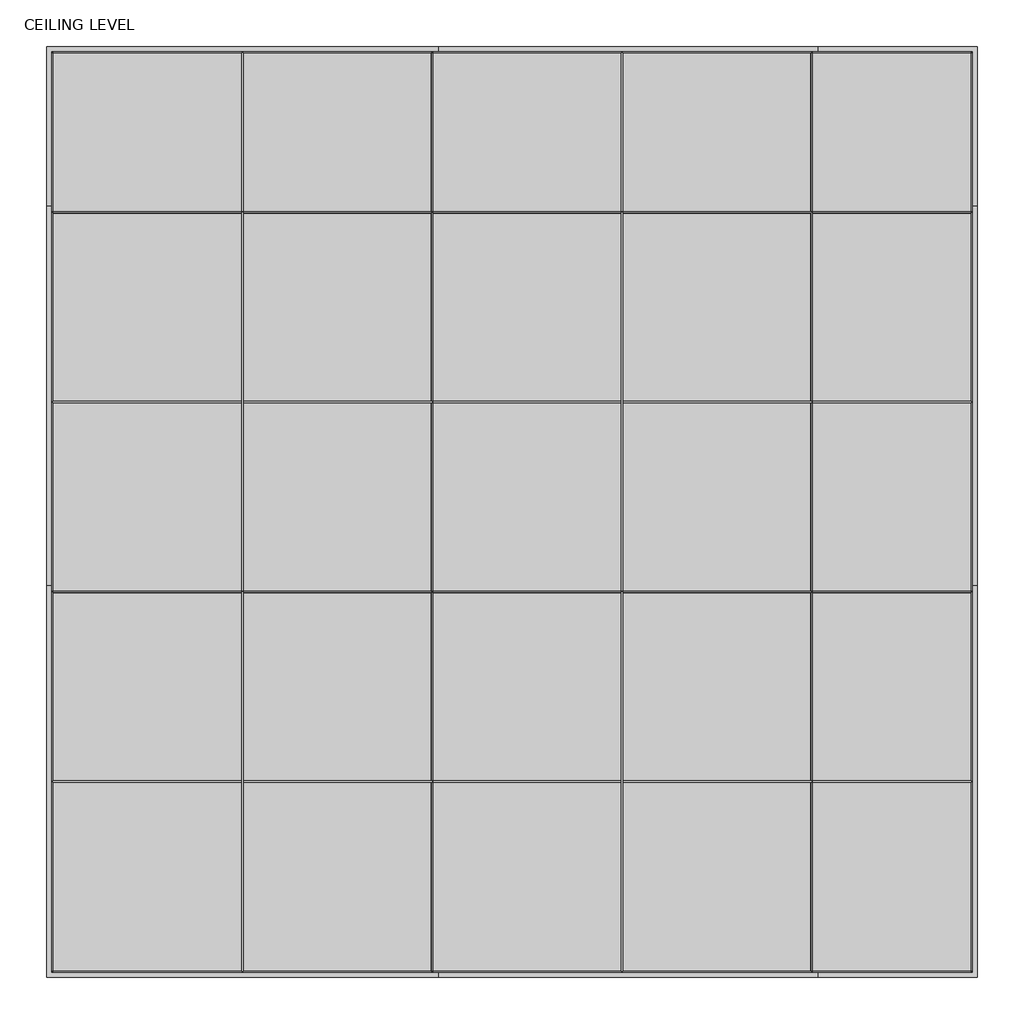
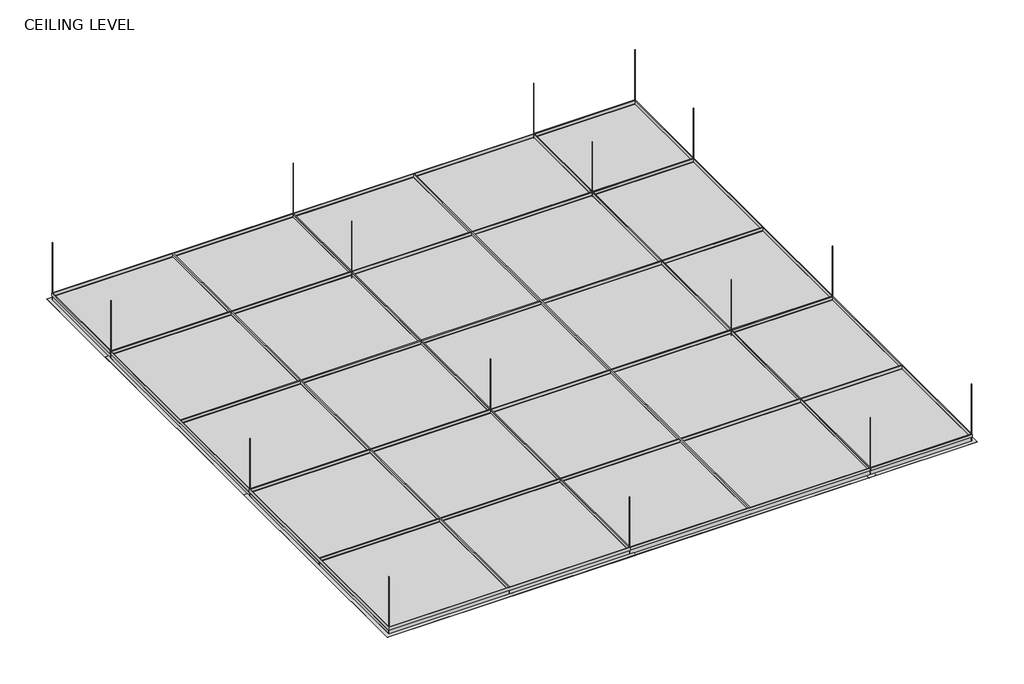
# One storey: 9 plates.
"""IFC4 building model written with IfcOpenShell, lengths in millimetres."""

import ifcopenshell
import ifcopenshell.guid

model = None  # the IFC model being written
_history = None  # IfcOwnerHistory: only IFC2X3 demands one
_inside = {}  # id of a spatial element -> (the spatial element, [elements in it])
_under = {}  # id of a project, library or spatial element -> (it, [spatial elements below it])
_declared = {}  # id of a project -> (the project, [libraries it declares])
_typed = {}  # id of a type object -> (the type object, [elements of that type])
_made_of = {}  # id of a material, layer set ... -> (it, [elements and type objects made of it])


def new_model(schema):
    """Start an empty IFC model of exactly this schema.

    Asked for "IFC4X3", IfcOpenShell would pick the latest addendum, in which some entities
    have other attributes; the version numbers below select the first issue.
    IFC2X3 requires an IfcOwnerHistory on every rooted entity: one is made here for all.
    """
    global model, _history
    if schema == "IFC4X3":
        model = ifcopenshell.file(schema_version=(4, 3, 0, 0))
    else:
        model = ifcopenshell.file(schema=schema)
    _inside.clear()
    _under.clear()
    _declared.clear()
    _typed.clear()
    _made_of.clear()
    _history = None
    if model.schema == "IFC2X3":
        org = make("IfcOrganization", Name="unknown")
        user = make(
            "IfcPersonAndOrganization",
            ThePerson=make("IfcPerson", FamilyName="unknown"),
            TheOrganization=org,
        )
        app = make(
            "IfcApplication",
            ApplicationDeveloper=org,
            Version="unknown",
            ApplicationFullName="unknown",
            ApplicationIdentifier="unknown",
        )
        _history = make(
            "IfcOwnerHistory",
            OwningUser=user,
            OwningApplication=app,
            ChangeAction="ADDED",
            CreationDate=0,
        )
    return model


def make(cls, **values):
    """One entity of the class cls with the attributes given. An attribute that is None is left unset."""
    return model.create_entity(
        cls, **{name: value for name, value in values.items() if value is not None}
    )


def rooted(cls, **values):
    """An entity with a GlobalId (a new one), such as an element, a storey or a relation."""
    return make(cls, GlobalId=ifcopenshell.guid.new(), OwnerHistory=_history, **values)


def si_unit(unit_type, name, prefix=None):
    """IfcSIUnit, for example si_unit("LENGTHUNIT", "METRE", prefix="MILLI")."""
    return make("IfcSIUnit", UnitType=unit_type, Prefix=prefix, Name=name)


def assignment(units):
    """IfcUnitAssignment: the units of a project."""
    return None if units is None else make("IfcUnitAssignment", Units=units)


def point(xyz):
    """IfcCartesianPoint."""
    return None if xyz is None else make("IfcCartesianPoint", Coordinates=xyz)


def direction(xyz):
    """IfcDirection."""
    return None if xyz is None else make("IfcDirection", DirectionRatios=xyz)


def frame(location, z_axis=None, x_axis=None):
    """IfcAxis2Placement3D, a coordinate frame: its origin and axes. An axis left out is left unset."""
    return make(
        "IfcAxis2Placement3D",
        Location=point(location),
        Axis=direction(z_axis),
        RefDirection=direction(x_axis),
    )


def frame_2d(location, x_axis=None):
    """IfcAxis2Placement2D, a coordinate frame in the plane: its origin and x axis."""
    return make(
        "IfcAxis2Placement2D", Location=point(location), RefDirection=direction(x_axis)
    )


def origin():
    """The frame at (0, 0, 0) with its axes left unset."""
    return frame((0.0, 0.0, 0.0))


def origin_with_axes():
    """The frame at (0, 0, 0) with the z axis (0, 0, 1) and the x axis (1, 0, 0) written out."""
    return frame((0.0, 0.0, 0.0), z_axis=(0.0, 0.0, 1.0), x_axis=(1.0, 0.0, 0.0))


def place(relative_to, where):
    """IfcLocalPlacement: puts the frame where relative to a parent placement (None: the world)."""
    return make(
        "IfcLocalPlacement", PlacementRelTo=relative_to, RelativePlacement=where
    )


def context(
    kind, dimensions, precision=None, world=None, true_north=None, identifier=None
):
    """IfcGeometricRepresentationContext, for example the 3D "Model" context."""
    return make(
        "IfcGeometricRepresentationContext",
        ContextIdentifier=identifier,
        ContextType=kind,
        CoordinateSpaceDimension=dimensions,
        Precision=precision,
        WorldCoordinateSystem=world,
        TrueNorth=true_north,
    )


def project(units=None, contexts=None):
    """IfcProject with its units and contexts."""
    return rooted(
        "IfcProject",
        Name="project",
        RepresentationContexts=contexts,
        UnitsInContext=assignment(units),
    )


def spatial(cls, under=None, at=None, **own):
    """A site, building, storey or space (cls), placed at a placement, below another one or the project."""
    s = rooted(cls, ObjectPlacement=at, **own)
    if under is not None:
        _under.setdefault(under.id(), (under, []))[1].append(s)
    return s


def polyline(points):
    """IfcPolyline through the points."""
    return make("IfcPolyline", Points=[point(p) for p in points])


def circle_curve(where, radius):
    """IfcCircle in the frame where."""
    return make("IfcCircle", Position=where, Radius=radius)


def trimmed(basis, trim1, trim2, sense, master):
    """IfcTrimmedCurve: the piece of a basis curve between two trims."""
    return make(
        "IfcTrimmedCurve",
        BasisCurve=basis,
        Trim1=trim1,
        Trim2=trim2,
        SenseAgreement=sense,
        MasterRepresentation=master,
    )


def segment(curve, same_sense, transition):
    """IfcCompositeCurveSegment."""
    return make(
        "IfcCompositeCurveSegment",
        Transition=transition,
        SameSense=same_sense,
        ParentCurve=curve,
    )


def composite_curve(segments, self_intersect=None):
    """IfcCompositeCurve: segments joined end to end."""
    return make("IfcCompositeCurve", Segments=segments, SelfIntersect=self_intersect)


def outline(outer, holes=None, kind="AREA"):
    """IfcArbitraryClosedProfileDef: a profile drawn as a closed curve; with holes, ...WithVoids."""
    if holes is None:
        return make("IfcArbitraryClosedProfileDef", ProfileType=kind, OuterCurve=outer)
    return make(
        "IfcArbitraryProfileDefWithVoids",
        ProfileType=kind,
        OuterCurve=outer,
        InnerCurves=holes,
    )


def extrude(swept, where, along, depth):
    """IfcExtrudedAreaSolid: the profile swept, set in the frame where, extruded along a direction by depth."""
    return make(
        "IfcExtrudedAreaSolid",
        SweptArea=swept,
        Position=where,
        ExtrudedDirection=direction(along),
        Depth=depth,
    )


def faces_of(points, faces, orient=None, outer=None):
    """IfcFace entities. A face is a list of loops; a loop is a list of indices into points, from 0.

    orient and outer hold one flag for each loop. By default every Orientation is true, the
    first loop of a face is its IfcFaceOuterBound and the others are IfcFaceBound.
    """
    made = []
    for i, loops in enumerate(faces):
        bounds = []
        for j, loop in enumerate(loops):
            is_outer = j == 0 if outer is None else outer[i][j]
            bounds.append(
                make(
                    "IfcFaceOuterBound" if is_outer else "IfcFaceBound",
                    Bound=make("IfcPolyLoop", Polygon=[points[k] for k in loop]),
                    Orientation=True if orient is None else orient[i][j],
                )
            )
        made.append(make("IfcFace", Bounds=bounds))
    return made


def faceted_brep(points, faces, orient=None, outer=None, voids=None):
    """IfcFacetedBrep: a solid bounded by flat faces; with voids (closed shells), ...WithVoids."""
    shared = [point(p) for p in points]
    hull = make("IfcClosedShell", CfsFaces=faces_of(shared, faces, orient, outer))
    if voids is None:
        return make("IfcFacetedBrep", Outer=hull)
    return make(
        "IfcFacetedBrepWithVoids",
        Outer=hull,
        Voids=[
            make(cls, CfsFaces=faces_of(shared, fs, o, b)) for cls, fs, o, b in voids
        ],
    )


def shape(context_of_items, identifier, shape_type, items):
    """IfcShapeRepresentation: the items that make up one representation, for example the "Body"."""
    return make(
        "IfcShapeRepresentation",
        ContextOfItems=context_of_items,
        RepresentationIdentifier=identifier,
        RepresentationType=shape_type,
        Items=items,
    )


def source(mapping_origin, context_of_items, identifier, shape_type, items):
    """IfcRepresentationMap: a shape defined once, which mapped items show again and again."""
    return make(
        "IfcRepresentationMap",
        MappingOrigin=mapping_origin,
        MappedRepresentation=shape(context_of_items, identifier, shape_type, items),
    )


def transform(
    local_origin,
    x_axis=None,
    y_axis=None,
    z_axis=None,
    scale=None,
    scale2=None,
    scale3=None,
    uniform=True,
):
    """IfcCartesianTransformationOperator3D, or its non-uniform kind. x_axis, y_axis, z_axis: its Axis1, 2, 3."""
    if uniform:
        return make(
            "IfcCartesianTransformationOperator3D",
            Axis1=direction(x_axis),
            Axis2=direction(y_axis),
            LocalOrigin=point(local_origin),
            Scale=scale,
            Axis3=direction(z_axis),
        )
    return make(
        "IfcCartesianTransformationOperator3DnonUniform",
        Axis1=direction(x_axis),
        Axis2=direction(y_axis),
        LocalOrigin=point(local_origin),
        Scale=scale,
        Axis3=direction(z_axis),
        Scale2=scale2,
        Scale3=scale3,
    )


def mapped(mapping_source, mapping_target):
    """IfcMappedItem: shows the shape of a source again, moved by a transform."""
    return make(
        "IfcMappedItem", MappingSource=mapping_source, MappingTarget=mapping_target
    )


def made_of(thing, what):
    """Note that an element or type object is made of a material, layer set ...; save() writes the relation."""
    if what is not None:
        _made_of.setdefault(what.id(), (what, []))[1].append(thing)
    return thing


def element(
    cls,
    number,
    at=None,
    inside=None,
    cuts=None,
    type_object=None,
    material=None,
    context=None,
    identifier="Body",
    shape_type=None,
    held_by="IfcProductDefinitionShape",
    body=None,
    shapes=None,
    **own,
):
    """One element of the class cls, such as IfcWall. Its Tag is "e" and its number.

    at: its placement. inside: the storey or other place that contains it. cuts: it is an
    opening in that element (IfcRelVoidsElement). A single representation is given by context,
    identifier, shape_type and body (its items); several are given by shapes. held_by: the class
    of the entity that holds the representations. save() writes the other relations.
    """
    e = rooted(cls, Tag="e%d" % number, ObjectPlacement=at, **own)
    if body is not None:
        shapes = [shape(context, identifier, shape_type, body)]
    if shapes is not None:
        e.Representation = make(held_by, Representations=shapes)
    if inside is not None:
        _inside.setdefault(inside.id(), (inside, []))[1].append(e)
    if cuts is not None:
        rooted(
            "IfcRelVoidsElement", RelatingBuildingElement=cuts, RelatedOpeningElement=e
        )
    if type_object is not None:
        _typed.setdefault(type_object.id(), (type_object, []))[1].append(e)
    return made_of(e, material)


def aggregate(whole, parts):
    """IfcRelAggregates: a whole, such as a stair, and the parts it consists of."""
    return rooted("IfcRelAggregates", RelatingObject=whole, RelatedObjects=parts)


def save(model, path):
    """Write the relations noted so far, then the file.

    IfcRelAggregates (storeys below a building ...), IfcRelContainedInSpatialStructure (elements
    in a storey), IfcRelDefinesByType, IfcRelAssociatesMaterial and IfcRelDeclares: one each for
    every whole, place, type object, material and project.
    """
    for whole, parts in _under.values():
        aggregate(whole, parts)
    for where, things in _inside.values():
        rooted(
            "IfcRelContainedInSpatialStructure",
            RelatedElements=things,
            RelatingStructure=where,
        )
    for kind, things in _typed.values():
        rooted("IfcRelDefinesByType", RelatedObjects=things, RelatingType=kind)
    for what, things in _made_of.values():
        rooted("IfcRelAssociatesMaterial", RelatedObjects=things, RelatingMaterial=what)
    for by, libraries in _declared.values():
        rooted("IfcRelDeclares", RelatingContext=by, RelatedDefinitions=libraries)
    model.write(path)


def ceiling_panel_with_tee_and_cable_ties_bb24702a(model_context):
    return source(origin(), model_context, "Body", "SolidModel", [
        extrude(outline(composite_curve([segment(trimmed(circle_curve(frame_2d((1200.0, 252.4999998)), 0.5), [point((1200.0, 252.9999998))], [point((1200.0, 251.9999998))], False, "CARTESIAN"), True, "CONTINUOUS"), segment(trimmed(circle_curve(frame_2d((1200.0, 252.4999998)), 0.5), [point((1200.0, 251.9999998))], [point((1200.0, 252.9999998))], False, "CARTESIAN"), True, "CONTINUOUS")], self_intersect=False)), frame((0.0, -300.0, 0.0), z_axis=(0.0, 1.0, 0.0), x_axis=(0.0, 0.0, 1.0)), (0.0, 0.0, 1.0), 300.0),
        extrude(outline(composite_curve([segment(trimmed(circle_curve(frame_2d((1200.0, -252.4999998)), 0.5), [point((1200.0, -251.9999998))], [point((1200.0, -252.9999998))], False, "CARTESIAN"), True, "CONTINUOUS"), segment(trimmed(circle_curve(frame_2d((1200.0, -252.4999998)), 0.5), [point((1200.0, -252.9999998))], [point((1200.0, -251.9999998))], False, "CARTESIAN"), True, "CONTINUOUS")], self_intersect=False)), frame((0.0, -300.0, 0.0), z_axis=(0.0, 1.0, 0.0), x_axis=(0.0, 0.0, 1.0)), (0.0, 0.0, 1.0), 300.0),
        extrude(outline(composite_curve([segment(trimmed(circle_curve(frame_2d((0.0, 252.4999998)), 0.5), [point((0.0, 252.9999998))], [point((0.0, 251.9999998))], False, "CARTESIAN"), True, "CONTINUOUS"), segment(trimmed(circle_curve(frame_2d((0.0, 252.4999998)), 0.5), [point((0.0, 251.9999998))], [point((0.0, 252.9999998))], False, "CARTESIAN"), True, "CONTINUOUS")], self_intersect=False)), frame((0.0, -300.0, 0.0), z_axis=(0.0, 1.0, 0.0), x_axis=(0.0, 0.0, 1.0)), (0.0, 0.0, 1.0), 300.0),
        extrude(outline(composite_curve([segment(trimmed(circle_curve(frame_2d((0.0, -252.4999998)), 0.5), [point((0.0, -251.9999998))], [point((0.0, -252.9999998))], False, "CARTESIAN"), True, "CONTINUOUS"), segment(trimmed(circle_curve(frame_2d((0.0, -252.4999998)), 0.5), [point((0.0, -252.9999998))], [point((0.0, -251.9999998))], False, "CARTESIAN"), True, "CONTINUOUS")], self_intersect=False)), frame((0.0, -300.0, 0.0), z_axis=(0.0, 1.0, 0.0), x_axis=(0.0, 0.0, 1.0)), (0.0, 0.0, 1.0), 300.0),
        extrude(outline(polyline([(2.0, 619.0), (2.0, 581.0), (1.0, 581.0), (1.0, 599.5), (-20.0, 599.5), (-20.0, 597.5), (-34.0, 597.5), (-34.0, 602.5), (-20.0, 602.5), (-20.0, 600.5), (1.0, 600.5), (1.0, 619.0), (2.0, 619.0)])), frame((-252.4999998, 0.0, 0.0), z_axis=(1.0, 0.0, 0.0), x_axis=(0.0, 1.0, 0.0)), (0.0, 0.0, 1.0), 504.9999997),
        faceted_brep([(233.4999998, 1.0, 1181.0), (233.4999998, 2.0, 1181.0), (233.4999998, 2.0, 19.0), (233.4999998, 1.0, 19.0), (251.9999998, -20.0, 1199.5), (251.9999998, 1.0, 1199.5), (251.9999998, 1.0, 0.5), (251.9999998, -20.0, 0.5), (249.9999998, -34.0, 1197.5), (249.9999998, -20.0, 1197.5), (249.9999998, -20.0, 2.5), (249.9999998, -34.0, 2.5), (254.9999998, -20.0, 1202.5), (254.9999998, -34.0, 1202.5), (254.9999998, -34.0, -2.5), (254.9999998, -20.0, -2.5), (252.9999998, 1.0, 1200.5), (252.9999998, -20.0, 1200.5), (252.9999998, -20.0, -0.5), (252.9999998, 1.0, -0.5), (271.4999998, 2.0, 1219.0), (271.4999998, 1.0, 1219.0), (271.4999998, 1.0, -19.0), (271.4999998, 2.0, -19.0), (-233.4999998, 2.0, 19.0), (-233.4999998, 1.0, 19.0), (-251.9999998, 1.0, 0.5), (-251.9999998, -20.0, 0.5), (-249.9999998, -20.0, 2.5), (-249.9999998, -34.0, 2.5), (-254.9999998, -34.0, -2.5), (-254.9999998, -20.0, -2.5), (-252.9999998, -20.0, -0.5), (-252.9999998, 1.0, -0.5), (-271.4999998, 1.0, -19.0), (-271.4999998, 2.0, -19.0), (-233.4999998, 2.0, 1181.0), (-233.4999998, 1.0, 1181.0), (-251.9999998, 1.0, 1199.5), (-251.9999998, -20.0, 1199.5), (-249.9999998, -20.0, 1197.5), (-249.9999998, -34.0, 1197.5), (-254.9999998, -34.0, 1202.5), (-254.9999998, -20.0, 1202.5), (-252.9999998, -20.0, 1200.5), (-252.9999998, 1.0, 1200.5), (-271.4999998, 1.0, 1219.0), (-271.4999998, 2.0, 1219.0)], [[[0, 1, 2, 3]], [[4, 5, 6, 7]], [[8, 9, 10, 11]], [[12, 13, 14, 15]], [[16, 17, 18, 19]], [[20, 21, 22, 23]], [[3, 2, 24, 25]], [[7, 6, 26, 27]], [[11, 10, 28, 29]], [[15, 14, 30, 31]], [[19, 18, 32, 33]], [[23, 22, 34, 35]], [[25, 24, 36, 37]], [[27, 26, 38, 39]], [[29, 28, 40, 41]], [[31, 30, 42, 43]], [[33, 32, 44, 45]], [[35, 34, 46, 47]], [[23, 35, 47, 20], [1, 36, 24, 2]], [[37, 36, 1, 0]], [[5, 38, 26, 6], [3, 25, 37, 0]], [[39, 38, 5, 4]], [[7, 27, 39, 4], [9, 40, 28, 10]], [[41, 40, 9, 8]], [[13, 42, 30, 14], [11, 29, 41, 8]], [[43, 42, 13, 12]], [[15, 31, 43, 12], [17, 44, 32, 18]], [[45, 44, 17, 16]], [[21, 46, 34, 22], [19, 33, 45, 16]], [[47, 46, 21, 20]]]),
        extrude(outline(polyline([(252.4999998, -15.0), (-252.4999998, -15.0), (-252.4999998, 0.0), (252.4999998, 0.0), (252.4999998, -15.0)])), origin_with_axes(), (0.0, 0.0, 1.0), 1200.0),
    ])


def ceiling_panel_with_tee_and_cable_ties_7c64ddbc(model_context):
    return source(origin(), model_context, "Body", "SolidModel", [
        extrude(outline(composite_curve([segment(trimmed(circle_curve(frame_2d((505.0, 600.0000002)), 0.5), [point((505.0, 600.5000002))], [point((505.0, 599.5000002))], False, "CARTESIAN"), True, "CONTINUOUS"), segment(trimmed(circle_curve(frame_2d((505.0, 600.0000002)), 0.5), [point((505.0, 599.5000002))], [point((505.0, 600.5000002))], False, "CARTESIAN"), True, "CONTINUOUS")], self_intersect=False)), frame((0.0, -300.0, 0.0), z_axis=(0.0, 1.0, 0.0), x_axis=(0.0, 0.0, 1.0)), (0.0, 0.0, 1.0), 300.0),
        extrude(outline(composite_curve([segment(trimmed(circle_curve(frame_2d((505.0, -600.0000002)), 0.5), [point((505.0, -599.5000002))], [point((505.0, -600.5000002))], False, "CARTESIAN"), True, "CONTINUOUS"), segment(trimmed(circle_curve(frame_2d((505.0, -600.0000002)), 0.5), [point((505.0, -600.5000002))], [point((505.0, -599.5000002))], False, "CARTESIAN"), True, "CONTINUOUS")], self_intersect=False)), frame((0.0, -300.0, 0.0), z_axis=(0.0, 1.0, 0.0), x_axis=(0.0, 0.0, 1.0)), (0.0, 0.0, 1.0), 300.0),
        extrude(outline(composite_curve([segment(trimmed(circle_curve(frame_2d((0.0, 600.0000002)), 0.5), [point((0.0, 600.5000002))], [point((0.0, 599.5000002))], False, "CARTESIAN"), True, "CONTINUOUS"), segment(trimmed(circle_curve(frame_2d((0.0, 600.0000002)), 0.5), [point((0.0, 599.5000002))], [point((0.0, 600.5000002))], False, "CARTESIAN"), True, "CONTINUOUS")], self_intersect=False)), frame((0.0, -300.0, 0.0), z_axis=(0.0, 1.0, 0.0), x_axis=(0.0, 0.0, 1.0)), (0.0, 0.0, 1.0), 300.0),
        extrude(outline(composite_curve([segment(trimmed(circle_curve(frame_2d((0.0, -600.0000002)), 0.5), [point((0.0, -599.5000002))], [point((0.0, -600.5000002))], False, "CARTESIAN"), True, "CONTINUOUS"), segment(trimmed(circle_curve(frame_2d((0.0, -600.0000002)), 0.5), [point((0.0, -600.5000002))], [point((0.0, -599.5000002))], False, "CARTESIAN"), True, "CONTINUOUS")], self_intersect=False)), frame((0.0, -300.0, 0.0), z_axis=(0.0, 1.0, 0.0), x_axis=(0.0, 0.0, 1.0)), (0.0, 0.0, 1.0), 300.0),
        extrude(outline(polyline([(19.0, 2.0), (19.0, 1.0), (0.5, 1.0), (0.5, -20.0), (2.5, -20.0), (2.5, -34.0), (-2.5, -34.0), (-2.5, -20.0), (-0.5, -20.0), (-0.5, 1.0), (-19.0, 1.0), (-19.0, 2.0), (19.0, 2.0)])), origin_with_axes(), (0.0, 0.0, 1.0), 505.0),
        faceted_brep([(581.0000002, 1.0, 486.0), (581.0000002, 2.0, 486.0), (581.0000002, 2.0, 19.0), (581.0000002, 1.0, 19.0), (599.5000002, -20.0, 504.5), (599.5000002, 1.0, 504.5), (599.5000002, 1.0, 0.5), (599.5000002, -20.0, 0.5), (597.5000002, -34.0, 502.5), (597.5000002, -20.0, 502.5), (597.5000002, -20.0, 2.5), (597.5000002, -34.0, 2.5), (602.5000002, -20.0, 507.5), (602.5000002, -34.0, 507.5), (602.5000002, -34.0, -2.5), (602.5000002, -20.0, -2.5), (600.5000002, 1.0, 505.5), (600.5000002, -20.0, 505.5), (600.5000002, -20.0, -0.5), (600.5000002, 1.0, -0.5), (619.0000002, 2.0, 524.0), (619.0000002, 1.0, 524.0), (619.0000002, 1.0, -19.0), (619.0000002, 2.0, -19.0), (-581.0000002, 2.0, 19.0), (-581.0000002, 1.0, 19.0), (-599.5000002, 1.0, 0.5), (-599.5000002, -20.0, 0.5), (-597.5000002, -20.0, 2.5), (-597.5000002, -34.0, 2.5), (-602.5000002, -34.0, -2.5), (-602.5000002, -20.0, -2.5), (-600.5000002, -20.0, -0.5), (-600.5000002, 1.0, -0.5), (-619.0000002, 1.0, -19.0), (-619.0000002, 2.0, -19.0), (-581.0000002, 2.0, 486.0), (-581.0000002, 1.0, 486.0), (-599.5000002, 1.0, 504.5), (-599.5000002, -20.0, 504.5), (-597.5000002, -20.0, 502.5), (-597.5000002, -34.0, 502.5), (-602.5000002, -34.0, 507.5), (-602.5000002, -20.0, 507.5), (-600.5000002, -20.0, 505.5), (-600.5000002, 1.0, 505.5), (-619.0000002, 1.0, 524.0), (-619.0000002, 2.0, 524.0)], [[[0, 1, 2, 3]], [[4, 5, 6, 7]], [[8, 9, 10, 11]], [[12, 13, 14, 15]], [[16, 17, 18, 19]], [[20, 21, 22, 23]], [[3, 2, 24, 25]], [[7, 6, 26, 27]], [[11, 10, 28, 29]], [[15, 14, 30, 31]], [[19, 18, 32, 33]], [[23, 22, 34, 35]], [[25, 24, 36, 37]], [[27, 26, 38, 39]], [[29, 28, 40, 41]], [[31, 30, 42, 43]], [[33, 32, 44, 45]], [[35, 34, 46, 47]], [[23, 35, 47, 20], [1, 36, 24, 2]], [[37, 36, 1, 0]], [[5, 38, 26, 6], [3, 25, 37, 0]], [[39, 38, 5, 4]], [[7, 27, 39, 4], [9, 40, 28, 10]], [[41, 40, 9, 8]], [[13, 42, 30, 14], [11, 29, 41, 8]], [[43, 42, 13, 12]], [[15, 31, 43, 12], [17, 44, 32, 18]], [[45, 44, 17, 16]], [[21, 46, 34, 22], [19, 33, 45, 16]], [[47, 46, 21, 20]]]),
        extrude(outline(polyline([(600.0000002, -15.0), (-600.0000002, -15.0), (-600.0000002, 0.0), (600.0000002, 0.0), (600.0000002, -15.0)])), origin_with_axes(), (0.0, 0.0, 1.0), 505.0),
    ])


def ceiling_panel_with_tee_and_cable_ties_1653b4b1(model_context):
    return source(origin(), model_context, "Body", "SolidModel", [
        extrude(outline(composite_curve([segment(trimmed(circle_curve(frame_2d((505.0, 252.4999998)), 0.5), [point((505.0, 252.9999998))], [point((505.0, 251.9999998))], False, "CARTESIAN"), True, "CONTINUOUS"), segment(trimmed(circle_curve(frame_2d((505.0, 252.4999998)), 0.5), [point((505.0, 251.9999998))], [point((505.0, 252.9999998))], False, "CARTESIAN"), True, "CONTINUOUS")], self_intersect=False)), frame((0.0, -300.0, 0.0), z_axis=(0.0, 1.0, 0.0), x_axis=(0.0, 0.0, 1.0)), (0.0, 0.0, 1.0), 300.0),
        extrude(outline(composite_curve([segment(trimmed(circle_curve(frame_2d((505.0, -252.4999998)), 0.5), [point((505.0, -251.9999998))], [point((505.0, -252.9999998))], False, "CARTESIAN"), True, "CONTINUOUS"), segment(trimmed(circle_curve(frame_2d((505.0, -252.4999998)), 0.5), [point((505.0, -252.9999998))], [point((505.0, -251.9999998))], False, "CARTESIAN"), True, "CONTINUOUS")], self_intersect=False)), frame((0.0, -300.0, 0.0), z_axis=(0.0, 1.0, 0.0), x_axis=(0.0, 0.0, 1.0)), (0.0, 0.0, 1.0), 300.0),
        extrude(outline(composite_curve([segment(trimmed(circle_curve(frame_2d((0.0, 252.4999998)), 0.5), [point((0.0, 252.9999998))], [point((0.0, 251.9999998))], False, "CARTESIAN"), True, "CONTINUOUS"), segment(trimmed(circle_curve(frame_2d((0.0, 252.4999998)), 0.5), [point((0.0, 251.9999998))], [point((0.0, 252.9999998))], False, "CARTESIAN"), True, "CONTINUOUS")], self_intersect=False)), frame((0.0, -300.0, 0.0), z_axis=(0.0, 1.0, 0.0), x_axis=(0.0, 0.0, 1.0)), (0.0, 0.0, 1.0), 300.0),
        extrude(outline(composite_curve([segment(trimmed(circle_curve(frame_2d((0.0, -252.4999998)), 0.5), [point((0.0, -251.9999998))], [point((0.0, -252.9999998))], False, "CARTESIAN"), True, "CONTINUOUS"), segment(trimmed(circle_curve(frame_2d((0.0, -252.4999998)), 0.5), [point((0.0, -252.9999998))], [point((0.0, -251.9999998))], False, "CARTESIAN"), True, "CONTINUOUS")], self_intersect=False)), frame((0.0, -300.0, 0.0), z_axis=(0.0, 1.0, 0.0), x_axis=(0.0, 0.0, 1.0)), (0.0, 0.0, 1.0), 300.0),
        faceted_brep([(233.4999998, 1.0, 486.0), (233.4999998, 2.0, 486.0), (233.4999998, 2.0, 19.0), (233.4999998, 1.0, 19.0), (251.9999998, -20.0, 504.5), (251.9999998, 1.0, 504.5), (251.9999998, 1.0, 0.5), (251.9999998, -20.0, 0.5), (249.9999998, -34.0, 502.5), (249.9999998, -20.0, 502.5), (249.9999998, -20.0, 2.5), (249.9999998, -34.0, 2.5), (254.9999998, -20.0, 507.5), (254.9999998, -34.0, 507.5), (254.9999998, -34.0, -2.5), (254.9999998, -20.0, -2.5), (252.9999998, 1.0, 505.5), (252.9999998, -20.0, 505.5), (252.9999998, -20.0, -0.5), (252.9999998, 1.0, -0.5), (271.4999998, 2.0, 524.0), (271.4999998, 1.0, 524.0), (271.4999998, 1.0, -19.0), (271.4999998, 2.0, -19.0), (-233.4999998, 2.0, 19.0), (-233.4999998, 1.0, 19.0), (-251.9999998, 1.0, 0.5), (-251.9999998, -20.0, 0.5), (-249.9999998, -20.0, 2.5), (-249.9999998, -34.0, 2.5), (-254.9999998, -34.0, -2.5), (-254.9999998, -20.0, -2.5), (-252.9999998, -20.0, -0.5), (-252.9999998, 1.0, -0.5), (-271.4999998, 1.0, -19.0), (-271.4999998, 2.0, -19.0), (-233.4999998, 2.0, 486.0), (-233.4999998, 1.0, 486.0), (-251.9999998, 1.0, 504.5), (-251.9999998, -20.0, 504.5), (-249.9999998, -20.0, 502.5), (-249.9999998, -34.0, 502.5), (-254.9999998, -34.0, 507.5), (-254.9999998, -20.0, 507.5), (-252.9999998, -20.0, 505.5), (-252.9999998, 1.0, 505.5), (-271.4999998, 1.0, 524.0), (-271.4999998, 2.0, 524.0)], [[[0, 1, 2, 3]], [[4, 5, 6, 7]], [[8, 9, 10, 11]], [[12, 13, 14, 15]], [[16, 17, 18, 19]], [[20, 21, 22, 23]], [[3, 2, 24, 25]], [[7, 6, 26, 27]], [[11, 10, 28, 29]], [[15, 14, 30, 31]], [[19, 18, 32, 33]], [[23, 22, 34, 35]], [[25, 24, 36, 37]], [[27, 26, 38, 39]], [[29, 28, 40, 41]], [[31, 30, 42, 43]], [[33, 32, 44, 45]], [[35, 34, 46, 47]], [[23, 35, 47, 20], [1, 36, 24, 2]], [[37, 36, 1, 0]], [[5, 38, 26, 6], [3, 25, 37, 0]], [[39, 38, 5, 4]], [[7, 27, 39, 4], [9, 40, 28, 10]], [[41, 40, 9, 8]], [[13, 42, 30, 14], [11, 29, 41, 8]], [[43, 42, 13, 12]], [[15, 31, 43, 12], [17, 44, 32, 18]], [[45, 44, 17, 16]], [[21, 46, 34, 22], [19, 33, 45, 16]], [[47, 46, 21, 20]]]),
        extrude(outline(polyline([(252.4999998, -15.0), (-252.4999998, -15.0), (-252.4999998, 0.0), (252.4999998, 0.0), (252.4999998, -15.0)])), origin_with_axes(), (0.0, 0.0, 1.0), 505.0),
    ])


def ceiling_panel_with_tee_and_cable_ties_ceiling_panel_vinyl_5080f121(model_context):
    return source(origin(), model_context, "Body", "SolidModel", [
        extrude(outline(composite_curve([segment(trimmed(circle_curve(frame_2d((1200.0, 600.0000002)), 0.5), [point((1200.0, 600.5000002))], [point((1200.0, 599.5000002))], False, "CARTESIAN"), True, "CONTINUOUS"), segment(trimmed(circle_curve(frame_2d((1200.0, 600.0000002)), 0.5), [point((1200.0, 599.5000002))], [point((1200.0, 600.5000002))], False, "CARTESIAN"), True, "CONTINUOUS")], self_intersect=False)), frame((0.0, -300.0, 0.0), z_axis=(0.0, 1.0, 0.0), x_axis=(0.0, 0.0, 1.0)), (0.0, 0.0, 1.0), 300.0),
        extrude(outline(composite_curve([segment(trimmed(circle_curve(frame_2d((1200.0, -600.0000002)), 0.5), [point((1200.0, -599.5000002))], [point((1200.0, -600.5000002))], False, "CARTESIAN"), True, "CONTINUOUS"), segment(trimmed(circle_curve(frame_2d((1200.0, -600.0000002)), 0.5), [point((1200.0, -600.5000002))], [point((1200.0, -599.5000002))], False, "CARTESIAN"), True, "CONTINUOUS")], self_intersect=False)), frame((0.0, -300.0, 0.0), z_axis=(0.0, 1.0, 0.0), x_axis=(0.0, 0.0, 1.0)), (0.0, 0.0, 1.0), 300.0),
        extrude(outline(composite_curve([segment(trimmed(circle_curve(frame_2d((0.0, 600.0000002)), 0.5), [point((0.0, 600.5000002))], [point((0.0, 599.5000002))], False, "CARTESIAN"), True, "CONTINUOUS"), segment(trimmed(circle_curve(frame_2d((0.0, 600.0000002)), 0.5), [point((0.0, 599.5000002))], [point((0.0, 600.5000002))], False, "CARTESIAN"), True, "CONTINUOUS")], self_intersect=False)), frame((0.0, -300.0, 0.0), z_axis=(0.0, 1.0, 0.0), x_axis=(0.0, 0.0, 1.0)), (0.0, 0.0, 1.0), 300.0),
        extrude(outline(composite_curve([segment(trimmed(circle_curve(frame_2d((0.0, -600.0000002)), 0.5), [point((0.0, -599.5000002))], [point((0.0, -600.5000002))], False, "CARTESIAN"), True, "CONTINUOUS"), segment(trimmed(circle_curve(frame_2d((0.0, -600.0000002)), 0.5), [point((0.0, -600.5000002))], [point((0.0, -599.5000002))], False, "CARTESIAN"), True, "CONTINUOUS")], self_intersect=False)), frame((0.0, -300.0, 0.0), z_axis=(0.0, 1.0, 0.0), x_axis=(0.0, 0.0, 1.0)), (0.0, 0.0, 1.0), 300.0),
        extrude(outline(polyline([(19.0, 2.0), (19.0, 1.0), (0.5, 1.0), (0.5, -20.0), (2.5, -20.0), (2.5, -34.0), (-2.5, -34.0), (-2.5, -20.0), (-0.5, -20.0), (-0.5, 1.0), (-19.0, 1.0), (-19.0, 2.0), (19.0, 2.0)])), origin_with_axes(), (0.0, 0.0, 1.0), 1200.0),
        extrude(outline(polyline([(2.0, 619.0), (2.0, 581.0), (1.0, 581.0), (1.0, 599.5), (-20.0, 599.5), (-20.0, 597.5), (-34.0, 597.5), (-34.0, 602.5), (-20.0, 602.5), (-20.0, 600.5), (1.0, 600.5), (1.0, 619.0), (2.0, 619.0)])), frame((-600.0000002, 0.0, 0.0), z_axis=(1.0, 0.0, 0.0), x_axis=(0.0, 1.0, 0.0)), (0.0, 0.0, 1.0), 1200.0000003),
        faceted_brep([(581.0000002, 1.0, 1181.0), (581.0000002, 2.0, 1181.0), (581.0000002, 2.0, 19.0), (581.0000002, 1.0, 19.0), (599.5000002, -20.0, 1199.5), (599.5000002, 1.0, 1199.5), (599.5000002, 1.0, 0.5), (599.5000002, -20.0, 0.5), (597.5000002, -34.0, 1197.5), (597.5000002, -20.0, 1197.5), (597.5000002, -20.0, 2.5), (597.5000002, -34.0, 2.5), (602.5000002, -20.0, 1202.5), (602.5000002, -34.0, 1202.5), (602.5000002, -34.0, -2.5), (602.5000002, -20.0, -2.5), (600.5000002, 1.0, 1200.5), (600.5000002, -20.0, 1200.5), (600.5000002, -20.0, -0.5), (600.5000002, 1.0, -0.5), (619.0000002, 2.0, 1219.0), (619.0000002, 1.0, 1219.0), (619.0000002, 1.0, -19.0), (619.0000002, 2.0, -19.0), (-581.0000002, 2.0, 19.0), (-581.0000002, 1.0, 19.0), (-599.5000002, 1.0, 0.5), (-599.5000002, -20.0, 0.5), (-597.5000002, -20.0, 2.5), (-597.5000002, -34.0, 2.5), (-602.5000002, -34.0, -2.5), (-602.5000002, -20.0, -2.5), (-600.5000002, -20.0, -0.5), (-600.5000002, 1.0, -0.5), (-619.0000002, 1.0, -19.0), (-619.0000002, 2.0, -19.0), (-581.0000002, 2.0, 1181.0), (-581.0000002, 1.0, 1181.0), (-599.5000002, 1.0, 1199.5), (-599.5000002, -20.0, 1199.5), (-597.5000002, -20.0, 1197.5), (-597.5000002, -34.0, 1197.5), (-602.5000002, -34.0, 1202.5), (-602.5000002, -20.0, 1202.5), (-600.5000002, -20.0, 1200.5), (-600.5000002, 1.0, 1200.5), (-619.0000002, 1.0, 1219.0), (-619.0000002, 2.0, 1219.0)], [[[0, 1, 2, 3]], [[4, 5, 6, 7]], [[8, 9, 10, 11]], [[12, 13, 14, 15]], [[16, 17, 18, 19]], [[20, 21, 22, 23]], [[3, 2, 24, 25]], [[7, 6, 26, 27]], [[11, 10, 28, 29]], [[15, 14, 30, 31]], [[19, 18, 32, 33]], [[23, 22, 34, 35]], [[25, 24, 36, 37]], [[27, 26, 38, 39]], [[29, 28, 40, 41]], [[31, 30, 42, 43]], [[33, 32, 44, 45]], [[35, 34, 46, 47]], [[23, 35, 47, 20], [1, 36, 24, 2]], [[37, 36, 1, 0]], [[5, 38, 26, 6], [3, 25, 37, 0]], [[39, 38, 5, 4]], [[7, 27, 39, 4], [9, 40, 28, 10]], [[41, 40, 9, 8]], [[13, 42, 30, 14], [11, 29, 41, 8]], [[43, 42, 13, 12]], [[15, 31, 43, 12], [17, 44, 32, 18]], [[45, 44, 17, 16]], [[21, 46, 34, 22], [19, 33, 45, 16]], [[47, 46, 21, 20]]]),
        extrude(outline(polyline([(600.0000002, -15.0), (-600.0000002, -15.0), (-600.0000002, 0.0), (600.0000002, 0.0), (600.0000002, -15.0)])), origin_with_axes(), (0.0, 0.0, 1.0), 1200.0),
    ])


model = new_model("IFC4")

# Units and contexts
model_context = context("Model", 3, world=origin())
ifc_project = project(units=[si_unit("LENGTHUNIT", "METRE", prefix="MILLI")], contexts=[model_context])

# Site, building, storey
site = spatial("IfcSite", under=ifc_project)
building = spatial("IfcBuilding", under=site)
storey = spatial("IfcBuildingStorey", under=building, Name="CEILING LEVEL", Elevation=3000.0)

# Plates
placement = place(None, origin())
ceiling_panel_with_tee_and_cable_ties_shape = ceiling_panel_with_tee_and_cable_ties_bb24702a(model_context)
element("IfcPlate", 1, ObjectType="Ceiling Panel with Tee and Cable Ties : Ceiling Panel (Vinyl) with Tee and Cable Ties Edge 2", at=placement, inside=storey, context=model_context, shape_type="MappedRepresentation", body=[
    mapped(ceiling_panel_with_tee_and_cable_ties_shape, transform((11210.7778373, -9455.6917524, 3000.0), x_axis=(1.0, 0.0, 0.0), y_axis=(0.0, 0.0, -1.0), z_axis=(0.0, 1.0, 0.0))),
])
element("IfcPlate", 2, ObjectType="Ceiling Panel with Tee and Cable Ties : Ceiling Panel (Vinyl) with Tee and Cable Ties Edge 2", at=placement, inside=storey, context=model_context, shape_type="MappedRepresentation", body=[
    mapped(ceiling_panel_with_tee_and_cable_ties_shape, transform((11210.7778373, -8255.6917524, 3000.0), x_axis=(1.0, 0.0, 0.0), y_axis=(0.0, 0.0, -1.0), z_axis=(0.0, 1.0, 0.0))),
])
ceiling_panel_with_tee_and_cable_ties_2_shape = ceiling_panel_with_tee_and_cable_ties_7c64ddbc(model_context)
element("IfcPlate", 3, ObjectType="Ceiling Panel with Tee and Cable Ties : Ceiling Panel (Vinyl) with Tee and Cable Ties Edge", at=placement, inside=storey, context=model_context, shape_type="MappedRepresentation", body=[
    mapped(ceiling_panel_with_tee_and_cable_ties_2_shape, transform((9158.2778373, -7055.6917524, 3000.0), x_axis=(1.0, 0.0, 0.0), y_axis=(0.0, 0.0, -1.0), z_axis=(0.0, 1.0, 0.0))),
])
element("IfcPlate", 4, ObjectType="Ceiling Panel with Tee and Cable Ties : Ceiling Panel (Vinyl) with Tee and Cable Ties Edge", at=placement, inside=storey, context=model_context, shape_type="MappedRepresentation", body=[
    mapped(ceiling_panel_with_tee_and_cable_ties_2_shape, transform((10358.2778375, -7055.6917524, 3000.0), x_axis=(1.0, 0.0, 0.0), y_axis=(0.0, 0.0, -1.0), z_axis=(0.0, 1.0, 0.0))),
])
ceiling_panel_with_tee_and_cable_ties_3_shape = ceiling_panel_with_tee_and_cable_ties_1653b4b1(model_context)
element("IfcPlate", 5, ObjectType="Ceiling Panel with Tee and Cable Ties : Ceiling Panel (Vinyl) with Tee and Cable Ties Edge 3", at=placement, inside=storey, context=model_context, shape_type="MappedRepresentation", body=[
    mapped(ceiling_panel_with_tee_and_cable_ties_3_shape, transform((11210.7778373, -7055.6917524, 3000.0), x_axis=(1.0, 0.0, 0.0), y_axis=(0.0, 0.0, -1.0), z_axis=(0.0, 1.0, 0.0))),
])
ceiling_panel_with_tee_and_cable_ties_ceiling_panel_vinyl_shape = ceiling_panel_with_tee_and_cable_ties_ceiling_panel_vinyl_5080f121(model_context)
element("IfcPlate", 6, ObjectType="Ceiling Panel with Tee and Cable Ties : Ceiling Panel (Vinyl) with Tee and Cable Ties", at=placement, inside=storey, context=model_context, shape_type="MappedRepresentation", body=[
    mapped(ceiling_panel_with_tee_and_cable_ties_ceiling_panel_vinyl_shape, transform((9158.2778373, -9455.6917524, 3000.0), x_axis=(1.0, 0.0, 0.0), y_axis=(0.0, 0.0, -1.0), z_axis=(0.0, 1.0, 0.0))),
])
element("IfcPlate", 7, ObjectType="Ceiling Panel with Tee and Cable Ties : Ceiling Panel (Vinyl) with Tee and Cable Ties", at=placement, inside=storey, context=model_context, shape_type="MappedRepresentation", body=[
    mapped(ceiling_panel_with_tee_and_cable_ties_ceiling_panel_vinyl_shape, transform((10358.2778375, -9455.6917524, 3000.0), x_axis=(1.0, 0.0, 0.0), y_axis=(0.0, 0.0, -1.0), z_axis=(0.0, 1.0, 0.0))),
])
element("IfcPlate", 8, ObjectType="Ceiling Panel with Tee and Cable Ties : Ceiling Panel (Vinyl) with Tee and Cable Ties", at=placement, inside=storey, context=model_context, shape_type="MappedRepresentation", body=[
    mapped(ceiling_panel_with_tee_and_cable_ties_ceiling_panel_vinyl_shape, transform((9158.2778373, -8255.6917524, 3000.0), x_axis=(1.0, 0.0, 0.0), y_axis=(0.0, 0.0, -1.0), z_axis=(0.0, 1.0, 0.0))),
])
element("IfcPlate", 9, ObjectType="Ceiling Panel with Tee and Cable Ties : Ceiling Panel (Vinyl) with Tee and Cable Ties", at=placement, inside=storey, context=model_context, shape_type="MappedRepresentation", body=[
    mapped(ceiling_panel_with_tee_and_cable_ties_ceiling_panel_vinyl_shape, transform((10358.2778375, -8255.6917524, 3000.0), x_axis=(1.0, 0.0, 0.0), y_axis=(0.0, 0.0, -1.0), z_axis=(0.0, 1.0, 0.0))),
])

save(model, "model.ifc")
